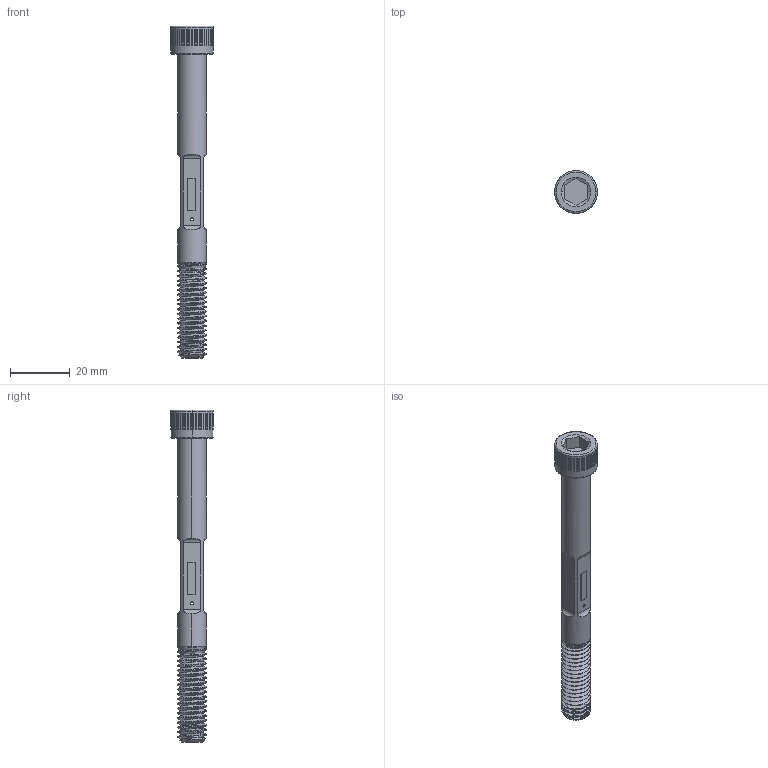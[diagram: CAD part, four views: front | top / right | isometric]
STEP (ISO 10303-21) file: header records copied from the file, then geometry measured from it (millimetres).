
FILE_DESCRIPTION (( 'STEP AP214' ), '1' );
FILE_NAME ('91251A640 3_8ths bolts machined for strain gauges.STEP', '2023-11-02T15:57:16', ( '' ), ( '' ), 'SwSTEP 2.0', 'SolidWorks 2023', '' );
FILE_SCHEMA (( 'AUTOMOTIVE_DESIGN' ));
Length unit declared in the file: metre
Products named in the file (1): 91251A640 3_8ths bolts machined for strain gauges
Bounding box: 14.29 x 14.29 x 111.12 mm (x, y, z)
Volume: 7434.6 mm3; surface area: 4922.9 mm2
Topology: 1 solids, 1 shells, 466 faces, 1210 edges, 801 vertices
Faces by surface type: plane 234, cylinder 112, cone 111, torus 6, bspline 3
Entity records: 17863 total; most frequent: CARTESIAN_POINT 6401, ORIENTED_EDGE 2416, DIRECTION 2347, EDGE_CURVE 1208, AXIS2_PLACEMENT_3D 802, VERTEX_POINT 801, VECTOR 743, LINE 743
